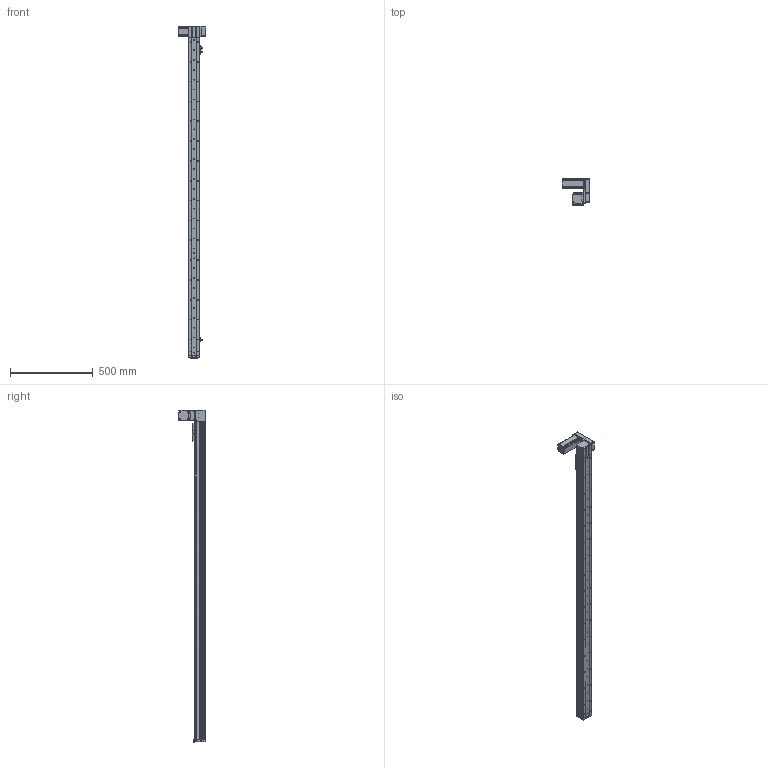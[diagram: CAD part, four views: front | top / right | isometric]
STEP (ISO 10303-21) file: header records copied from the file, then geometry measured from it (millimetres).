
FILE_DESCRIPTION (( 'STEP AP214' ), '1' );
FILE_NAME ('KSD68BS-S1750-MLU-CR.STEP', '2019-11-07T08:32:47', ( '微软用户' ), ( '微软中国' ), 'SwSTEP 2.0', 'SolidWorks 2014', '' );
FILE_SCHEMA (( 'AUTOMOTIVE_DESIGN' ));
Length unit declared in the file: millimetre
Products named in the file (14): 68遵裔啣揤啣1; KSD68BS 1750行程底板全封闭; KSD68BS-S1750-MLU-CR; KSD68BS 1750行程盖板全封闭; 68宽单导轨全封闭丝杆传动安装板1防护罩; KSD68BS 1750行程侧板全封闭; 68宽单导轨全封闭同步带端板; 68单导轨全封闭同步带电机座左; 68单导轨全封闭同步带安装板; 悵誘欶奻狟殏; 68宽马达安装板连板上折同步带; 感应片68宽全封闭; U倰嫖萇EEㄜSX672; 台达ECMA－C20604AS伺服电机（400W)
Assembly tree (17 placements, depth 2):
  KSD68BS-S1750-MLU-CR
    KSD68BS 1750行程底板全封闭
    台达ECMA－C20604AS伺服电机（400W)
    U倰嫖萇EEㄜSX672  x3
    感应片68宽全封闭
    68宽马达安装板连板上折同步带
    悵誘欶奻狟殏
    68单导轨全封闭同步带安装板
    68单导轨全封闭同步带电机座左
    68宽单导轨全封闭同步带端板
    KSD68BS 1750行程侧板全封闭  x2
    68宽单导轨全封闭丝杆传动安装板1防护罩
    68遵裔啣揤啣1  x2
    KSD68BS 1750行程盖板全封闭
Bounding box: 167.2 x 159.5 x 2008.1 mm (x, y, z)
Volume: 3546758.1 mm3; surface area: 1448717.6 mm2
Topology: 18 solids, 18 shells, 1635 faces, 4725 edges, 3008 vertices
Faces by surface type: cylinder 810, plane 629, cone 196
Entity records: 53799 total; most frequent: CARTESIAN_POINT 9423, DIRECTION 7988, ORIENTED_EDGE 7646, EDGE_CURVE 3823, AXIS2_PLACEMENT_3D 2921, VERTEX_POINT 2506, LINE 2146, VECTOR 2146
